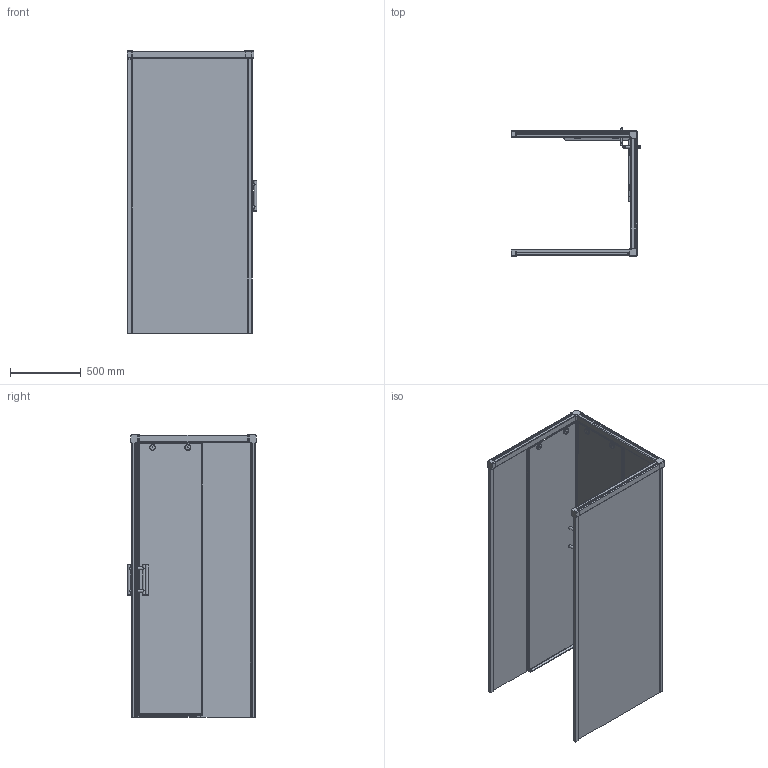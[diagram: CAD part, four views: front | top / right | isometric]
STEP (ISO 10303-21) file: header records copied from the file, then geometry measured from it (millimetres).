
FILE_DESCRIPTION(/* description */ (''),/* implementation_level */ '2;1');
FILE_NAME(/* name */ 'D:\17\SLIDE SQUARE GK-865\SLIDE SQUARE GK-865 правая модель\SLIDE SQUARE GK-865 ПРАВАЯ-3D.stp',/* time_stamp */ '2022-03-04T12:45:49+03:00',/* author */ ('ChechurovS'),/* organization */ (''),/* preprocessor_version */ 'ST-DEVELOPER v15.2',/* originating_system */ 'Autodesk Inventor 2014',/* authorisation */ '');
FILE_SCHEMA (('AUTOMOTIVE_DESIGN { 1 0 10303 214 3 1 1 }'));
Length unit declared in the file: millimetre
Products named in the file (1): SLIDE SQUARE GK-865 ПРАВАЯ-3
D
Bounding box: 916.35 x 911.4 x 2001.5 mm (x, y, z)
Volume: 46163722.5 mm3; surface area: 11729210.2 mm2
Topology: 4 solids, 8 shells, 1160 faces, 3242 edges, 2114 vertices
Faces by surface type: plane 706, cylinder 369, torus 52, bspline 28, cone 5
Full cylindrical faces by diameter (mm): 20 x12, 37 x8, 42 x8
Entity records: 39122 total; most frequent: CARTESIAN_POINT 7982, ORIENTED_EDGE 6340, DIRECTION 6125, EDGE_CURVE 3166, LINE 2209, VECTOR 2209, VERTEX_POINT 2094, AXIS2_PLACEMENT_3D 1958
